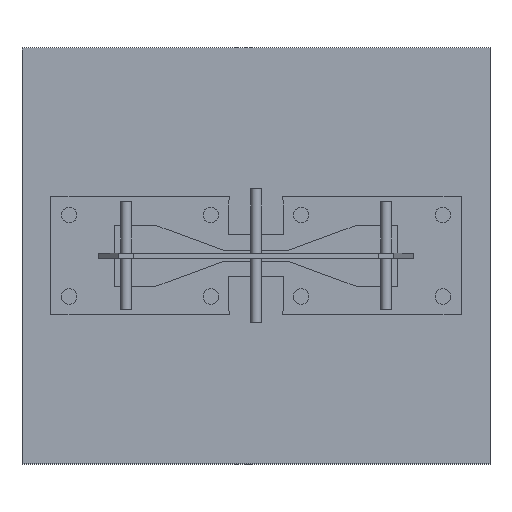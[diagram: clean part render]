
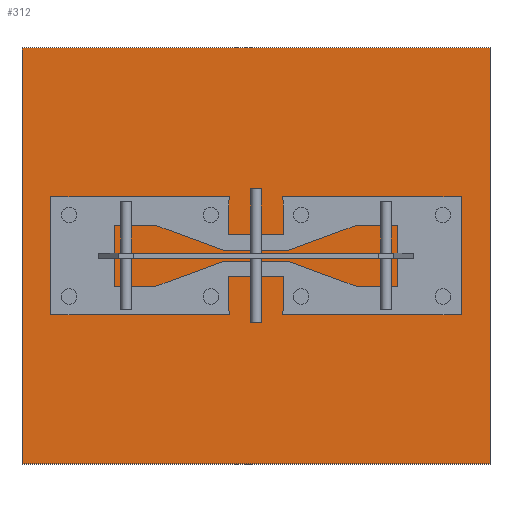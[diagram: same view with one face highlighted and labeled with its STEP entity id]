
A CAD part, top view. The second image highlights one B-rep face of the part: STEP entity #312.
In plain terms, the highlighted planar face has unit normal (0, 0, 1).
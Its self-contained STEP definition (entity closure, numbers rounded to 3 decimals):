
#312=ADVANCED_FACE('',(#480),#481,.T.);
#480=FACE_OUTER_BOUND('',#807,.T.);
#481=PLANE('',#808);
#807=EDGE_LOOP('',(#1134,#1135,#1136,#1137));
#808=AXIS2_PLACEMENT_3D('',#1138,#1139,#1140);
#1134=ORIENTED_EDGE('',*,*,#2150,.T.);
#1135=ORIENTED_EDGE('',*,*,#2151,.T.);
#1136=ORIENTED_EDGE('',*,*,#2152,.T.);
#1137=ORIENTED_EDGE('',*,*,#2153,.T.);
#1138=CARTESIAN_POINT('',(0.0,0.0,1.5));
#1139=DIRECTION('',(0.0,0.0,1.0));
#1140=DIRECTION('',(1.0,0.0,0.0));
#2150=EDGE_CURVE('',#2456,#2457,#2458,.T.);
#2151=EDGE_CURVE('',#2457,#2459,#2460,.T.);
#2152=EDGE_CURVE('',#2459,#2461,#2462,.T.);
#2153=EDGE_CURVE('',#2461,#2456,#2463,.T.);
#2456=VERTEX_POINT('',#2926);
#2457=VERTEX_POINT('',#2927);
#2458=LINE('',#2928,#2929);
#2459=VERTEX_POINT('',#2930);
#2460=LINE('',#2931,#2932);
#2461=VERTEX_POINT('',#2933);
#2462=LINE('',#2934,#2935);
#2463=LINE('',#2936,#2937);
#2926=CARTESIAN_POINT('',(90.0,-80.0,1.5));
#2927=CARTESIAN_POINT('',(90.0,80.0,1.5));
#2928=CARTESIAN_POINT('',(90.0,0.0,1.5));
#2929=VECTOR('',#3570,1.0);
#2930=CARTESIAN_POINT('',(-90.0,80.0,1.5));
#2931=CARTESIAN_POINT('',(0.0,80.0,1.5));
#2932=VECTOR('',#3571,1.0);
#2933=CARTESIAN_POINT('',(-90.0,-80.0,1.5));
#2934=CARTESIAN_POINT('',(-90.0,0.0,1.5));
#2935=VECTOR('',#3572,1.0);
#2936=CARTESIAN_POINT('',(0.0,-80.0,1.5));
#2937=VECTOR('',#3573,1.0);
#3570=DIRECTION('',(0.0,1.0,0.0));
#3571=DIRECTION('',(-1.0,0.0,0.0));
#3572=DIRECTION('',(0.0,-1.0,0.0));
#3573=DIRECTION('',(1.0,0.0,0.0));
